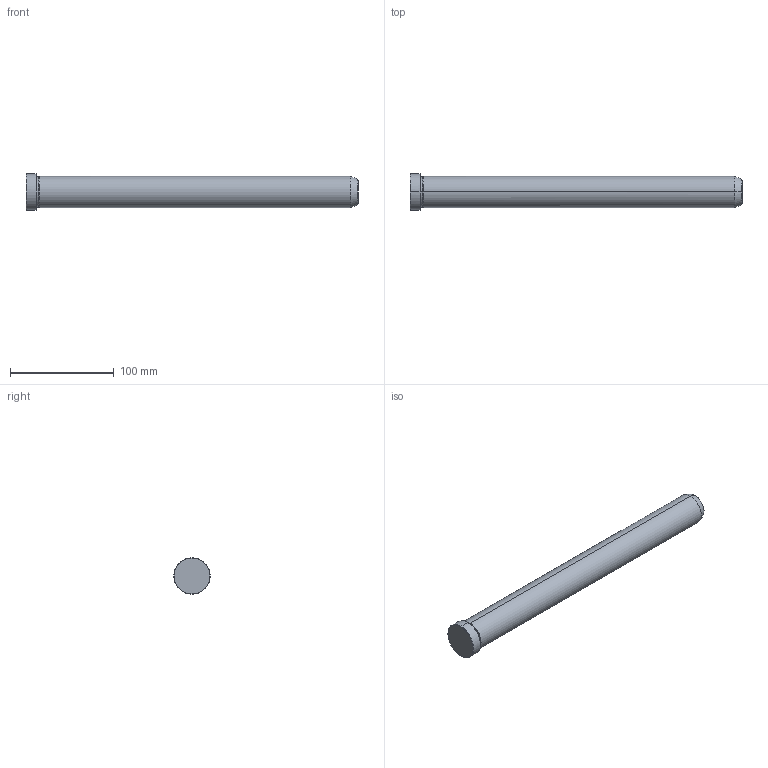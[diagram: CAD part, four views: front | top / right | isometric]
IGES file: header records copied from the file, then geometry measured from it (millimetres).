
Start section: START RECORD GO HERE.
Global section: file name: 549-30X320.igs; native system: DASSAULT SYSTEMES CATIA V5 R20 - www.3ds.com; preprocessor: CATIA Version 5 Release 20 ; author: Utente; organization: NB04-ASUS; date: 20211217.152827; units: millimetre
Bounding box: 320 x 35 x 35 mm (x, y, z)
Surface area: 31983.5 mm2 (no closed solid volume)
Topology: 0 solids, 0 shells, 19 faces, 112 edges, 112 vertices
Faces by surface type: revolution 16, plane 3
